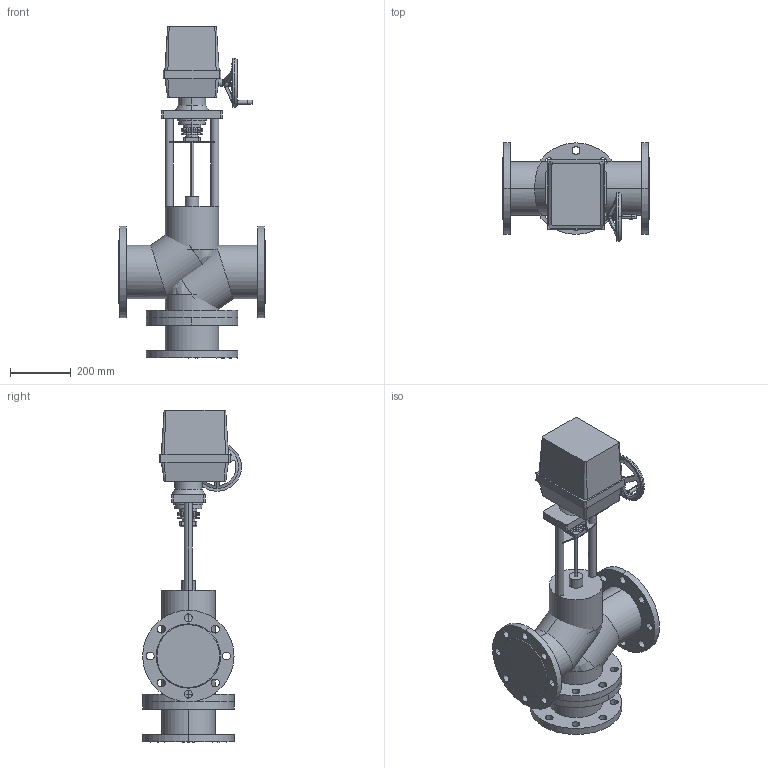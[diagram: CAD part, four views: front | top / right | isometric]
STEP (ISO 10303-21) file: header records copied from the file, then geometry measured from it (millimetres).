
FILE_DESCRIPTION(/* description */ (''),/* implementation_level */ '2;1');
FILE_NAME(/* name */ 'ТРК DN150 PN 2.5 МПа Regada ST2',/* time_stamp */ '2026-07-14T23:13:58+03:00',/* author */ (''),/* organization */ (''),/* preprocessor_version */ 'ST-DEVELOPER v20',/* originating_system */ '',/* authorisation */ '');
FILE_SCHEMA (('AP242_MANAGED_MODEL_BASED_3D_ENGINEERING_MIM_LF { 1 0 10303 442 1 1 4 }'));
Length unit declared in the file: millimetre
Products named in the file (16): TopLevelAssembly; Выдавливание; Модификатор; Модификатор_1; Выдавливание_
1; Выдавливание_
2; Вращение; Выдавливание_
3; Выдавливание_
4; Выдавливание_
5; Выдавливание_
6; Выдавливание_
7; Привод_Regada ST 2; Переход; Объемная геометрия 
присоединена; Объемная геометрия 
присоединена_1
Assembly tree (15 placements, depth 2):
  TopLevelAssembly
    Выдавливание
    Модификатор
    Модификатор_1
    Выдавливание_
1
    Выдавливание_
2
    Вращение
    Выдавливание_
3
    Выдавливание_
4
    Выдавливание_
5
    Выдавливание_
6
    Выдавливание_
7
    Привод_Regada ST 2
    Переход
    Объемная геометрия 
присоединена
    Объемная геометрия 
присоединена_1
Bounding box: 480 x 323.99 x 1089 mm (x, y, z)
Volume: 39802798.9 mm3; surface area: 2370283.4 mm2
Topology: 30 solids, 30 shells, 341 faces, 779 edges, 486 vertices
Faces by surface type: cylinder 172, plane 109, bspline 56, cone 4
Entity records: 11336 total; most frequent: CARTESIAN_POINT 2747, DIRECTION 1802, ORIENTED_EDGE 1538, EDGE_CURVE 769, AXIS2_PLACEMENT_3D 741, VERTEX_POINT 486, EDGE_LOOP 435, CIRCLE 417
